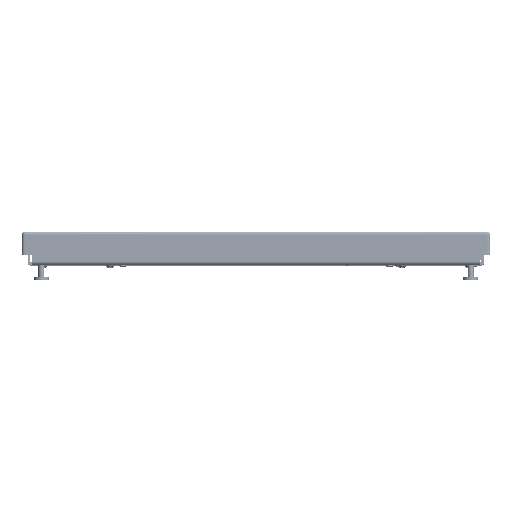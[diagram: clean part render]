
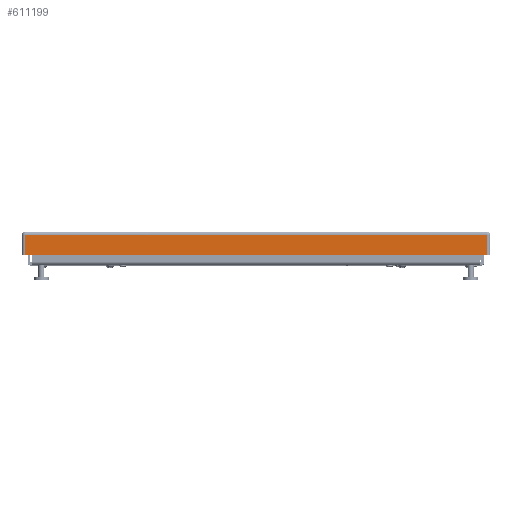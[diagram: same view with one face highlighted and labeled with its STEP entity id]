
A CAD part, top view. The second image highlights one B-rep face of the part: STEP entity #611199.
In plain terms, the highlighted planar face has unit normal (0, 0, 1) as drawn and (0, 0, -1) by its records, which use the part's own axes.
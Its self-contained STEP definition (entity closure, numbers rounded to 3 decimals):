
#7261 = CARTESIAN_POINT ( 'NONE',  ( 296.27, 0.813, -300. ) ) ;
#31013 = DIRECTION ( 'NONE',  ( 0., 1., 0. ) ) ;
#39933 = CARTESIAN_POINT ( 'NONE',  ( 300., 0.813, -300. ) ) ;
#48942 = CARTESIAN_POINT ( 'NONE',  ( 296.27, 26.437, -300. ) ) ;
#72778 = VECTOR ( 'NONE', #407561, 1000. ) ;
#87972 = CARTESIAN_POINT ( 'NONE',  ( 0., 26.437, -300. ) ) ;
#98601 = AXIS2_PLACEMENT_3D ( 'NONE', #312528, #109771, #316975 ) ;
#109771 = DIRECTION ( 'NONE',  ( 0., 0., 1. ) ) ;
#140776 = EDGE_LOOP ( 'NONE', ( #229384, #161013, #629875, #589901 ) ) ;
#158226 = EDGE_CURVE ( 'NONE', #525839, #479486, #653325, .T. ) ;
#160031 = VECTOR ( 'NONE', #31013, 1000. ) ;
#161013 = ORIENTED_EDGE ( 'NONE', *, *, #158226, .T. ) ;
#205686 = EDGE_CURVE ( 'NONE', #436771, #274015, #430988, .T. ) ;
#208436 = LINE ( 'NONE', #39933, #72778 ) ;
#229384 = ORIENTED_EDGE ( 'NONE', *, *, #339190, .F. ) ;
#274009 = DIRECTION ( 'NONE',  ( 0., 1., 0. ) ) ;
#274015 = VERTEX_POINT ( 'NONE', #48942 ) ;
#278393 = CARTESIAN_POINT ( 'NONE',  ( -296.27, 0., -300. ) ) ;
#309486 = CARTESIAN_POINT ( 'NONE',  ( -296.27, 0.813, -300. ) ) ;
#311087 = VECTOR ( 'NONE', #274009, 1000. ) ;
#312528 = CARTESIAN_POINT ( 'NONE',  ( 0., 0., -300. ) ) ;
#316975 = DIRECTION ( 'NONE',  ( 0., -1., 0. ) ) ;
#339190 = EDGE_CURVE ( 'NONE', #525839, #436771, #208436, .T. ) ;
#348695 = EDGE_CURVE ( 'NONE', #479486, #274015, #464787, .T. ) ;
#352992 = VECTOR ( 'NONE', #642446, 1000. ) ;
#407561 = DIRECTION ( 'NONE',  ( 1., 0., 0. ) ) ;
#430988 = LINE ( 'NONE', #588090, #160031 ) ;
#436771 = VERTEX_POINT ( 'NONE', #7261 ) ;
#464787 = LINE ( 'NONE', #87972, #352992 ) ;
#470540 = PLANE ( 'NONE',  #98601 ) ;
#479486 = VERTEX_POINT ( 'NONE', #571632 ) ;
#525839 = VERTEX_POINT ( 'NONE', #309486 ) ;
#536953 = FACE_OUTER_BOUND ( 'NONE', #140776, .T. ) ;
#571632 = CARTESIAN_POINT ( 'NONE',  ( -296.27, 26.437, -300. ) ) ;
#588090 = CARTESIAN_POINT ( 'NONE',  ( 296.27, 0., -300. ) ) ;
#589901 = ORIENTED_EDGE ( 'NONE', *, *, #205686, .F. ) ;
#611199 = ADVANCED_FACE ( 'NONE', ( #536953 ), #470540, .F. ) ;
#629875 = ORIENTED_EDGE ( 'NONE', *, *, #348695, .T. ) ;
#642446 = DIRECTION ( 'NONE',  ( 1., 0., 0. ) ) ;
#653325 = LINE ( 'NONE', #278393, #311087 ) ;
